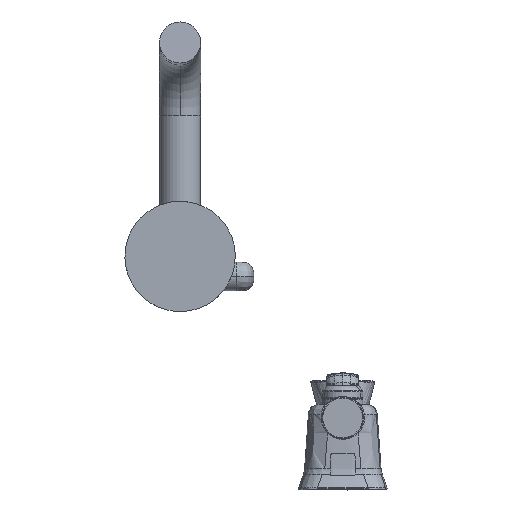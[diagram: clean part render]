
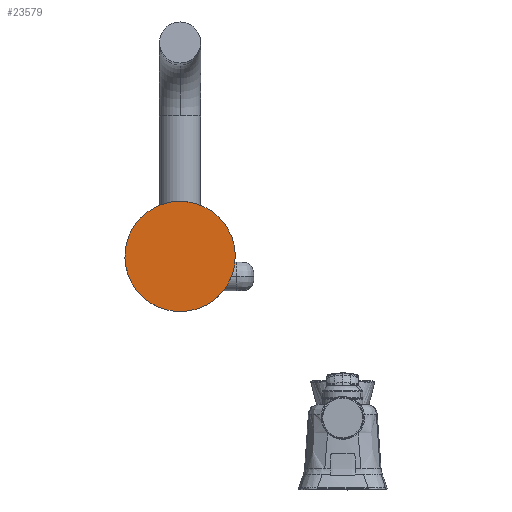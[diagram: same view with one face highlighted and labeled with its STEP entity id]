
A CAD part, front view. The second image highlights one B-rep face of the part: STEP entity #23579.
In plain terms, the highlighted planar face has unit normal (0, -1, 0).
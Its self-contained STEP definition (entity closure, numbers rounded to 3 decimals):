
#215 = CARTESIAN_POINT ( 'NONE',  ( 1.245, 0., -30.762 ) ) ;
#4803 = PLANE ( 'NONE',  #11005 ) ;
#5267 = CARTESIAN_POINT ( 'NONE',  ( -3.758, 0., -30.519 ) ) ;
#9439 = VERTEX_POINT ( 'NONE', #36710 ) ;
#10080 = DIRECTION ( 'NONE',  ( 0., 1., 0. ) ) ;
#10773 = CARTESIAN_POINT ( 'NONE',  ( 28.86, 0., -17.233 ) ) ;
#11005 = AXIS2_PLACEMENT_3D ( 'NONE', #52207, #10080, #46906 ) ;
#11185 = EDGE_CURVE ( 'NONE', #25078, #9439, #31820, .T. ) ;
#11944 = EDGE_CURVE ( 'NONE', #9439, #25078, #45333, .T. ) ;
#15411 = CARTESIAN_POINT ( 'NONE',  ( 18.063, 0., -28.251 ) ) ;
#16304 = CARTESIAN_POINT ( 'NONE',  ( -2.916, 0., -30.623 ) ) ;
#18133 = CARTESIAN_POINT ( 'NONE',  ( -13.086, 0., 32.594 ) ) ;
#22963 = CARTESIAN_POINT ( 'NONE',  ( 3.758, 0., 30.519 ) ) ;
#23579 = ADVANCED_FACE ( 'NONE', ( #30488 ), #4803, .F. ) ;
#23670 = CARTESIAN_POINT ( 'NONE',  ( -6.26, 0., -30.142 ) ) ;
#25078 = VERTEX_POINT ( 'NONE', #27011 ) ;
#27011 = CARTESIAN_POINT ( 'NONE',  ( 3.758, 0., 30.519 ) ) ;
#28937 = CARTESIAN_POINT ( 'NONE',  ( -28.445, 0., 20.602 ) ) ;
#30488 = FACE_OUTER_BOUND ( 'NONE', #63783, .T. ) ;
#31820 = B_SPLINE_CURVE_WITH_KNOTS ( 'NONE', 3,
 ( #47374, #57763, #57548, #10773, #15411, #68375, #215, #52226, #16304, #5267 ),
 .UNSPECIFIED., .F., .F.,
 ( 4, 2, 1, 1, 1, 1, 4 ),
 ( 0.096, 0.144, 0.182, 0.185, 0.187, 0.189, 0.192 ),
 .UNSPECIFIED. ) ;
#34184 = ORIENTED_EDGE ( 'NONE', *, *, #11944, .F. ) ;
#36710 = CARTESIAN_POINT ( 'NONE',  ( -3.758, 0., -30.519 ) ) ;
#42361 = ORIENTED_EDGE ( 'NONE', *, *, #11185, .F. ) ;
#45333 = B_SPLINE_CURVE_WITH_KNOTS ( 'NONE', 3,
 ( #58888, #54019, #23670, #55190, #60507, #65114, #55420, #28937, #18133, #22963 ),
 .UNSPECIFIED., .F., .F.,
 ( 4, 1, 1, 1, 1, 2, 4 ),
 ( 0., 0.002, 0.005, 0.007, 0.01, 0.048, 0.096 ),
 .UNSPECIFIED. ) ;
#46906 = DIRECTION ( 'NONE',  ( 0., 0., -1. ) ) ;
#47374 = CARTESIAN_POINT ( 'NONE',  ( 3.758, 0., 30.519 ) ) ;
#52207 = CARTESIAN_POINT ( 'NONE',  ( 0., 0., 0. ) ) ;
#52226 = CARTESIAN_POINT ( 'NONE',  ( -1.239, 0., -30.76 ) ) ;
#54019 = CARTESIAN_POINT ( 'NONE',  ( -4.6, 0., -30.416 ) ) ;
#55190 = CARTESIAN_POINT ( 'NONE',  ( -8.671, 0., -29.541 ) ) ;
#55420 = CARTESIAN_POINT ( 'NONE',  ( -32.179, 0., -9.717 ) ) ;
#57548 = CARTESIAN_POINT ( 'NONE',  ( 32.594, 0., 13.086 ) ) ;
#57763 = CARTESIAN_POINT ( 'NONE',  ( 20.602, 0., 28.445 ) ) ;
#58888 = CARTESIAN_POINT ( 'NONE',  ( -3.758, 0., -30.519 ) ) ;
#60507 = CARTESIAN_POINT ( 'NONE',  ( -10.995, 0., -28.758 ) ) ;
#63783 = EDGE_LOOP ( 'NONE', ( #34184, #42361 ) ) ;
#65114 = CARTESIAN_POINT ( 'NONE',  ( -24.377, 0., -23.025 ) ) ;
#68375 = CARTESIAN_POINT ( 'NONE',  ( 3.69, 0., -30.566 ) ) ;
